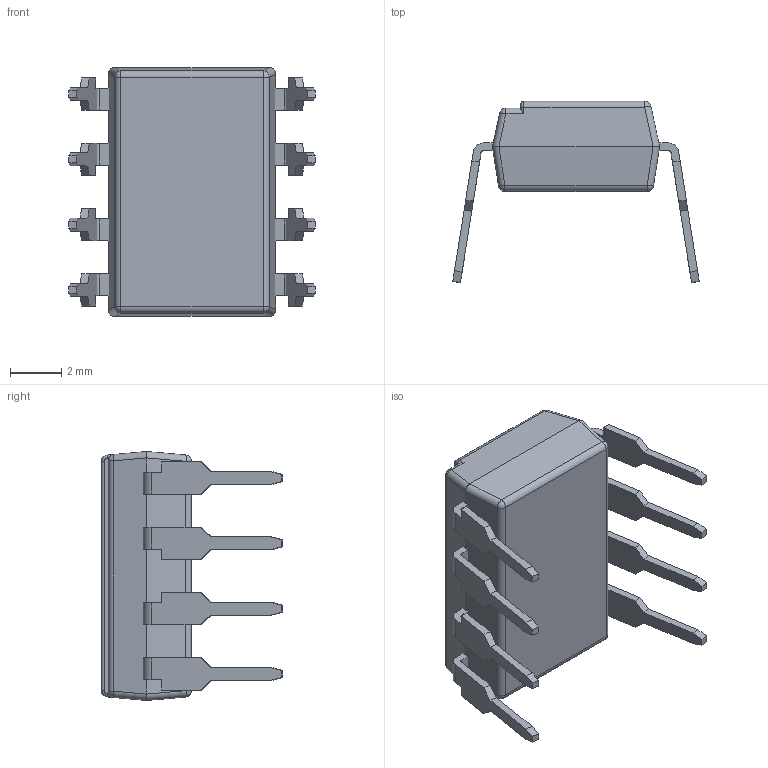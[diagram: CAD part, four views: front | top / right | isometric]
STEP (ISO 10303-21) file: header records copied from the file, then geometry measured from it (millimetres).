
FILE_DESCRIPTION(/* description */ ('STEP AP203'),/* implementation_level */ '2;1');
FILE_NAME(/* name */ 'H:\COPYBOX\Miro\Achim Kruck\DIP-8\DIP-8.stp',/* time_stamp */ '2018-10-11T14:54:36+02:00',/* author */ ('mmangarudov'),/* organization */ (''),/* preprocessor_version */ 'ST-DEVELOPER v16.1',/* originating_system */ 'Autodesk Inventor 2016',/* authorisation */ '');
FILE_SCHEMA (('AUTOMOTIVE_DESIGN { 1 0 10303 214 3 1 1 }'));
Length unit declared in the file: millimetre
Products named in the file (1): DIP8
Bounding box: 9.58 x 7.05 x 9.68 mm (x, y, z)
Volume: 214.2 mm3; surface area: 315.5 mm2
Topology: 1 solids, 1 shells, 179 faces, 511 edges, 326 vertices
Faces by surface type: plane 132, cylinder 37, sphere 8, torus 2
Entity records: 5814 total; most frequent: CARTESIAN_POINT 1079, ORIENTED_EDGE 1006, DIRECTION 927, EDGE_CURVE 503, LINE 427, VECTOR 427, VERTEX_POINT 326, AXIS2_PLACEMENT_3D 250
